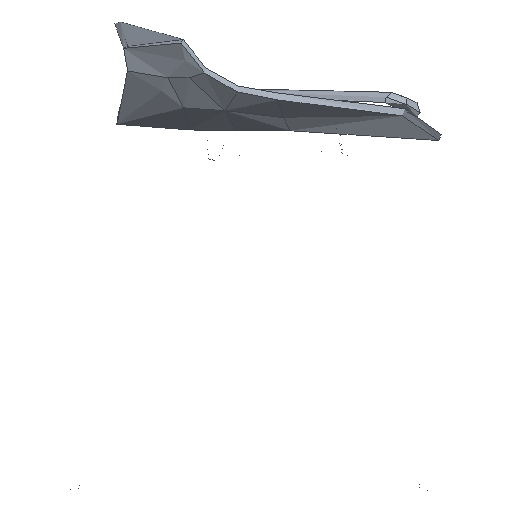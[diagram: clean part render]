
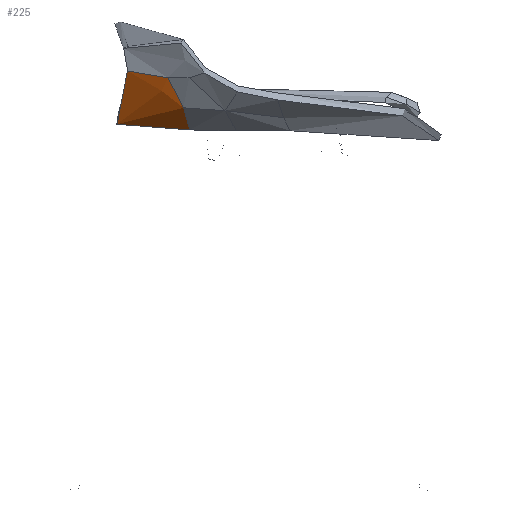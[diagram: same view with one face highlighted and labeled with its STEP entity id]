
A CAD part, left-side view. The second image highlights one B-rep face of the part: STEP entity #225.
In plain terms, the highlighted free-form (B-spline) face has degree [3, 3] with [8, 7] control points.
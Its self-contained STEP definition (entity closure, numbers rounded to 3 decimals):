
#225=ADVANCED_FACE('',(#334),#1675,.T.);
#334=FACE_OUTER_BOUND('',#443,.T.);
#443=EDGE_LOOP('',(#666,#667,#668,#669,#670));
#666=ORIENTED_EDGE('',*,*,#1111,.T.);
#667=ORIENTED_EDGE('',*,*,#1116,.F.);
#668=ORIENTED_EDGE('',*,*,#1120,.T.);
#669=ORIENTED_EDGE('',*,*,#1119,.F.);
#670=ORIENTED_EDGE('',*,*,#1112,.F.);
#1111=EDGE_CURVE('',#1516,#1526,#1379,.T.);
#1112=EDGE_CURVE('',#1516,#1517,#1380,.T.);
#1116=EDGE_CURVE('',#1530,#1526,#1384,.T.);
#1119=EDGE_CURVE('',#1517,#1523,#1387,.T.);
#1120=EDGE_CURVE('',#1530,#1523,#1388,.T.);
#1379=B_SPLINE_CURVE_WITH_KNOTS('',3,(#8483,#8484,#8485,#8486,#8487,#8488,
#8489,#8490),.UNSPECIFIED.,.F.,.F.,(4,1,3,4),(-1.,-0.667,-0.333,
0.),.UNSPECIFIED.);
#1380=B_SPLINE_CURVE_WITH_KNOTS('',3,(#8491,#8492,#8493,#8494,#8495,#8496,
#8497,#8498,#8499),.UNSPECIFIED.,.F.,.F.,(4,1,1,1,1,1,4),(-1.,-0.75,-0.5,
-0.375,-0.25,-0.125,0.),.UNSPECIFIED.);
#1384=B_SPLINE_CURVE_WITH_KNOTS('',3,(#8527,#8528,#8529,#8530,#8531,#8532,
#8533),.UNSPECIFIED.,.F.,.F.,(4,1,1,1,4),(-1.,-0.75,-0.5,-0.25,0.),
 .UNSPECIFIED.);
#1387=B_SPLINE_CURVE_WITH_KNOTS('',3,(#8552,#8553,#8554,#8555,#8556,#8557,
#8558,#8559,#8560),.UNSPECIFIED.,.F.,.F.,(4,1,1,1,1,1,4),(-1.,-0.875,-0.75,
-0.625,-0.5,-0.25,0.),.UNSPECIFIED.);
#1388=B_SPLINE_CURVE_WITH_KNOTS('',3,(#8561,#8562,#8563,#8564,#8565,#8566,
#8567,#8568),.UNSPECIFIED.,.F.,.F.,(4,3,1,4),(-1.,-0.667,-0.333,
0.),.UNSPECIFIED.);
#1516=VERTEX_POINT('',#7745);
#1517=VERTEX_POINT('',#7746);
#1523=VERTEX_POINT('',#7752);
#1526=VERTEX_POINT('',#7755);
#1530=VERTEX_POINT('',#7759);
#1675=B_SPLINE_SURFACE_WITH_KNOTS('',3,3,((#5644,#5645,#5646,#5647,#5648,
#5649,#5650),(#5651,#5652,#5653,#5654,#5655,#5656,#5657),(#5658,#5659,#5660,
#5661,#5662,#5663,#5664),(#5665,#5666,#5667,#5668,#5669,#5670,#5671),(#5672,
#5673,#5674,#5675,#5676,#5677,#5678),(#5679,#5680,#5681,#5682,#5683,#5684,
#5685),(#5686,#5687,#5688,#5689,#5690,#5691,#5692),(#5693,#5694,#5695,#5696,
#5697,#5698,#5699)),.UNSPECIFIED.,.F.,.F.,.F.,(4,1,3,4),(4,1,1,1,4),(-2.,
-1.,0.,1.),(-2.,-1.,0.,1.,2.),.UNSPECIFIED.);
#5644=CARTESIAN_POINT('',(-221.75,141.453,520.63));
#5645=CARTESIAN_POINT('',(-219.235,138.069,514.161));
#5646=CARTESIAN_POINT('',(-213.581,130.629,500.993));
#5647=CARTESIAN_POINT('',(-201.883,120.779,482.274));
#5648=CARTESIAN_POINT('',(-185.627,115.57,466.317));
#5649=CARTESIAN_POINT('',(-172.377,114.221,458.154));
#5650=CARTESIAN_POINT('',(-165.306,113.836,454.85));
#5651=CARTESIAN_POINT('',(-220.903,146.316,521.035));
#5652=CARTESIAN_POINT('',(-218.509,143.299,514.704));
#5653=CARTESIAN_POINT('',(-213.148,136.763,501.844));
#5654=CARTESIAN_POINT('',(-201.89,128.295,483.372));
#5655=CARTESIAN_POINT('',(-185.919,124.009,467.127));
#5656=CARTESIAN_POINT('',(-172.74,123.081,458.644));
#5657=CARTESIAN_POINT('',(-165.671,122.884,455.206));
#5658=CARTESIAN_POINT('',(-219.102,156.168,522.165));
#5659=CARTESIAN_POINT('',(-216.952,153.839,516.117));
#5660=CARTESIAN_POINT('',(-212.148,148.935,503.843));
#5661=CARTESIAN_POINT('',(-201.722,142.886,485.778));
#5662=CARTESIAN_POINT('',(-186.365,140.184,468.941));
#5663=CARTESIAN_POINT('',(-173.38,140.04,459.812));
#5664=CARTESIAN_POINT('',(-166.336,140.24,456.09));
#5665=CARTESIAN_POINT('',(-217.198,165.405,523.669));
#5666=CARTESIAN_POINT('',(-215.278,163.642,517.901));
#5667=CARTESIAN_POINT('',(-210.961,160.034,506.143));
#5668=CARTESIAN_POINT('',(-201.256,155.928,488.37));
#5669=CARTESIAN_POINT('',(-186.523,154.684,470.987));
#5670=CARTESIAN_POINT('',(-173.804,155.416,461.251));
#5671=CARTESIAN_POINT('',(-166.833,156.087,457.245));
#5672=CARTESIAN_POINT('',(-216.246,169.653,524.449));
#5673=CARTESIAN_POINT('',(-214.435,168.137,518.814));
#5674=CARTESIAN_POINT('',(-210.342,165.095,507.295));
#5675=CARTESIAN_POINT('',(-200.965,161.895,489.652));
#5676=CARTESIAN_POINT('',(-186.527,161.448,472.028));
#5677=CARTESIAN_POINT('',(-173.951,162.692,462.013));
#5678=CARTESIAN_POINT('',(-167.031,163.626,457.871));
#5679=CARTESIAN_POINT('',(-214.343,178.15,526.009));
#5680=CARTESIAN_POINT('',(-212.749,177.126,520.641));
#5681=CARTESIAN_POINT('',(-209.104,175.216,509.599));
#5682=CARTESIAN_POINT('',(-200.384,173.829,492.218));
#5683=CARTESIAN_POINT('',(-186.533,174.977,474.11));
#5684=CARTESIAN_POINT('',(-174.244,177.244,463.538));
#5685=CARTESIAN_POINT('',(-167.427,178.705,459.122));
#5686=CARTESIAN_POINT('',(-212.443,185.165,527.683));
#5687=CARTESIAN_POINT('',(-211.039,184.484,522.553));
#5688=CARTESIAN_POINT('',(-207.763,183.382,511.911));
#5689=CARTESIAN_POINT('',(-199.574,183.546,494.731));
#5690=CARTESIAN_POINT('',(-186.238,186.566,476.266));
#5691=CARTESIAN_POINT('',(-174.278,190.149,465.232));
#5692=CARTESIAN_POINT('',(-167.621,192.249,460.567));
#5693=CARTESIAN_POINT('',(-210.543,192.181,529.356));
#5694=CARTESIAN_POINT('',(-209.328,191.843,524.465));
#5695=CARTESIAN_POINT('',(-206.421,191.548,514.223));
#5696=CARTESIAN_POINT('',(-198.764,193.263,497.245));
#5697=CARTESIAN_POINT('',(-185.943,198.155,478.422));
#5698=CARTESIAN_POINT('',(-174.312,203.053,466.927));
#5699=CARTESIAN_POINT('',(-167.815,205.792,462.013));
#7745=CARTESIAN_POINT('',(-221.75,141.453,520.63));
#7746=CARTESIAN_POINT('',(-201.123,121.553,482.734));
#7752=CARTESIAN_POINT('',(-165.306,113.836,454.85));
#7755=CARTESIAN_POINT('',(-210.543,192.181,529.356));
#7759=CARTESIAN_POINT('',(-167.815,205.792,462.013));
#8483=CARTESIAN_POINT('',(-221.75,141.453,520.63));
#8484=CARTESIAN_POINT('',(-220.903,146.316,521.035));
#8485=CARTESIAN_POINT('',(-219.102,156.168,522.165));
#8486=CARTESIAN_POINT('',(-217.198,165.405,523.669));
#8487=CARTESIAN_POINT('',(-216.246,169.653,524.449));
#8488=CARTESIAN_POINT('',(-214.343,178.15,526.009));
#8489=CARTESIAN_POINT('',(-212.443,185.165,527.683));
#8490=CARTESIAN_POINT('',(-210.543,192.181,529.356));
#8491=CARTESIAN_POINT('',(-221.75,141.453,520.63));
#8492=CARTESIAN_POINT('',(-220.493,139.761,517.396));
#8493=CARTESIAN_POINT('',(-217.822,136.209,510.869));
#8494=CARTESIAN_POINT('',(-213.953,131.695,502.747));
#8495=CARTESIAN_POINT('',(-210.456,128.248,496.378));
#8496=CARTESIAN_POINT('',(-207.611,125.797,491.693));
#8497=CARTESIAN_POINT('',(-204.523,123.532,487.126));
#8498=CARTESIAN_POINT('',(-202.288,122.18,484.179));
#8499=CARTESIAN_POINT('',(-201.123,121.553,482.734));
#8527=CARTESIAN_POINT('',(-167.815,205.792,462.013));
#8528=CARTESIAN_POINT('',(-174.312,203.053,466.927));
#8529=CARTESIAN_POINT('',(-185.943,198.155,478.422));
#8530=CARTESIAN_POINT('',(-198.764,193.263,497.245));
#8531=CARTESIAN_POINT('',(-206.421,191.548,514.223));
#8532=CARTESIAN_POINT('',(-209.328,191.843,524.465));
#8533=CARTESIAN_POINT('',(-210.543,192.181,529.356));
#8552=CARTESIAN_POINT('',(-201.123,121.553,482.734));
#8553=CARTESIAN_POINT('',(-199.959,120.925,481.29));
#8554=CARTESIAN_POINT('',(-197.534,119.767,478.457));
#8555=CARTESIAN_POINT('',(-193.627,118.297,474.397));
#8556=CARTESIAN_POINT('',(-189.465,117.071,470.538));
#8557=CARTESIAN_POINT('',(-183.594,115.733,465.684));
#8558=CARTESIAN_POINT('',(-175.69,114.559,460.195));
#8559=CARTESIAN_POINT('',(-168.841,114.029,456.502));
#8560=CARTESIAN_POINT('',(-165.306,113.836,454.85));
#8561=CARTESIAN_POINT('',(-167.815,205.792,462.013));
#8562=CARTESIAN_POINT('',(-167.621,192.249,460.567));
#8563=CARTESIAN_POINT('',(-167.427,178.705,459.122));
#8564=CARTESIAN_POINT('',(-167.031,163.626,457.871));
#8565=CARTESIAN_POINT('',(-166.833,156.087,457.245));
#8566=CARTESIAN_POINT('',(-166.336,140.24,456.09));
#8567=CARTESIAN_POINT('',(-165.671,122.884,455.206));
#8568=CARTESIAN_POINT('',(-165.306,113.836,454.85));
